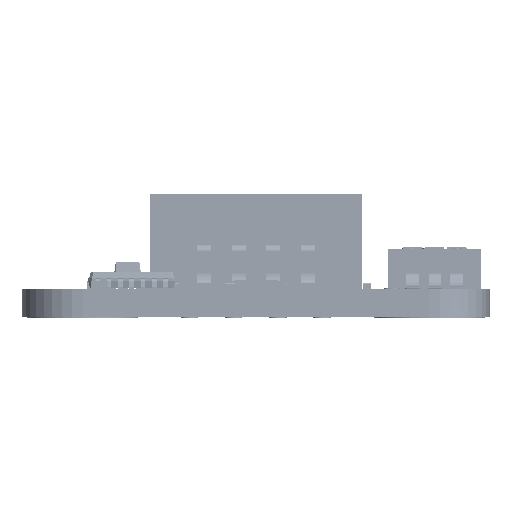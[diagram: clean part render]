
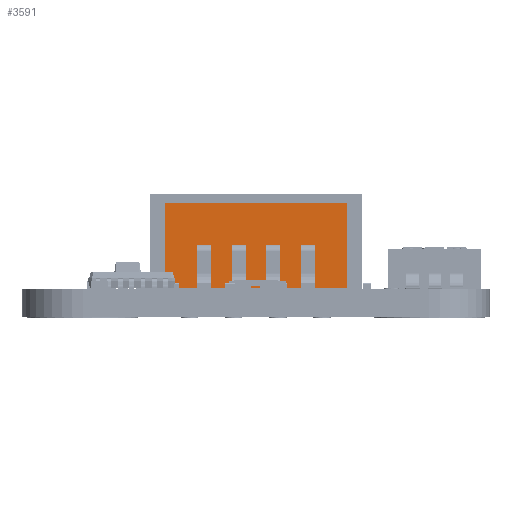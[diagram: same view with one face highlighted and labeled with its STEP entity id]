
A CAD part, left-side view. The second image highlights one B-rep face of the part: STEP entity #3591.
In plain terms, the highlighted planar face has unit normal (-1, 0, 0).
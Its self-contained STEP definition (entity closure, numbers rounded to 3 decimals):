
#3591=ADVANCED_FACE('',(#10037),#105712,.T.);
#10037=FACE_OUTER_BOUND('',#16711,.T.);
#16711=EDGE_LOOP('',(#30203,#30204,#30205,#30206));
#30203=ORIENTED_EDGE('',*,*,#58806,.F.);
#30204=ORIENTED_EDGE('',*,*,#58808,.T.);
#30205=ORIENTED_EDGE('',*,*,#58809,.T.);
#30206=ORIENTED_EDGE('',*,*,#58810,.T.);
#58806=EDGE_CURVE('',#94219,#94220,#82025,.T.);
#58808=EDGE_CURVE('',#94219,#94221,#82027,.T.);
#58809=EDGE_CURVE('',#94221,#94222,#82028,.T.);
#58810=EDGE_CURVE('',#94222,#94220,#82029,.T.);
#82025=B_SPLINE_CURVE_WITH_KNOTS('',1,(#151047,#151048),.UNSPECIFIED.,.F.,
 .F.,(2,2),(0.,4.9),.UNSPECIFIED.);
#82027=B_SPLINE_CURVE_WITH_KNOTS('',1,(#151051,#151052),.UNSPECIFIED.,.F.,
 .F.,(2,2),(0.,10.465),.UNSPECIFIED.);
#82028=B_SPLINE_CURVE_WITH_KNOTS('',1,(#151053,#151054),.UNSPECIFIED.,.F.,
 .F.,(2,2),(0.,4.9),.UNSPECIFIED.);
#82029=B_SPLINE_CURVE_WITH_KNOTS('',1,(#151055,#151056),.UNSPECIFIED.,.F.,
 .F.,(2,2),(0.,10.465),.UNSPECIFIED.);
#94219=VERTEX_POINT('',#151037);
#94220=VERTEX_POINT('',#151038);
#94221=VERTEX_POINT('',#151039);
#94222=VERTEX_POINT('',#151040);
#105712=PLANE('',#111115);
#111115=AXIS2_PLACEMENT_3D('',#151030,#121325,$);
#121325=DIRECTION('',(-1.,0.,0.));
#151030=CARTESIAN_POINT('',(10.615,-6.279,7.111));
#151037=CARTESIAN_POINT('',(10.615,-5.232,6.621));
#151038=CARTESIAN_POINT('',(10.615,-5.232,1.721));
#151039=CARTESIAN_POINT('',(10.615,5.232,6.621));
#151040=CARTESIAN_POINT('',(10.615,5.232,1.721));
#151047=CARTESIAN_POINT('',(10.615,-5.232,6.621));
#151048=CARTESIAN_POINT('',(10.615,-5.232,1.721));
#151051=CARTESIAN_POINT('',(10.615,-5.232,6.621));
#151052=CARTESIAN_POINT('',(10.615,5.232,6.621));
#151053=CARTESIAN_POINT('',(10.615,5.232,6.621));
#151054=CARTESIAN_POINT('',(10.615,5.232,1.721));
#151055=CARTESIAN_POINT('',(10.615,5.232,1.721));
#151056=CARTESIAN_POINT('',(10.615,-5.232,1.721));
